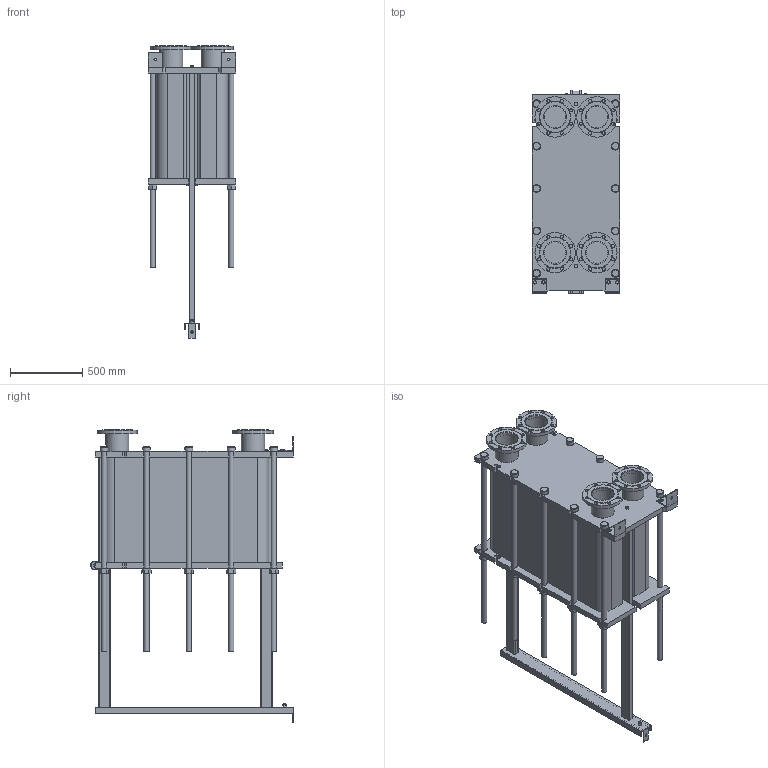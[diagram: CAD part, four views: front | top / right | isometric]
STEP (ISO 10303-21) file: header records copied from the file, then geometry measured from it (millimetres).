
FILE_DESCRIPTION(/* description */ (''),/* implementation_level */ '2;1');
FILE_NAME(/* name */ 'C:\Users\zhuro\Desktop\ENCO\TO\ЭН-041\ЭН-0,5-041-212-1.stp',/* time_stamp */ '2022-06-06T11:06:57+03:00',/* author */ ('zhuro'),/* organization */ (''),/* preprocessor_version */ 'ST-DEVELOPER v18.1',/* originating_system */ 'Autodesk Inventor 2022',/* authorisation */ '');
FILE_SCHEMA (('AUTOMOTIVE_DESIGN { 1 0 10303 214 3 1 1 }'));
Length unit declared in the file: millimetre
Products named in the file (1): ЭН-0,5-041-212-1
Bounding box: 610 x 1406.5 x 2030 mm (x, y, z)
Volume: 499710304.2 mm3; surface area: 11494019.3 mm2
Topology: 52 solids, 52 shells, 711 faces, 1696 edges, 1094 vertices
Faces by surface type: plane 487, cylinder 177, cone 41, torus 6
Full cylindrical faces by diameter (mm): 8 x4, 10 x2, 16 x8, 18 x3, 22 x32, 36 x24, 50 x1, 54 x10, 60 x12, 151 x4, 161 x8, 280 x4
Entity records: 22667 total; most frequent: CARTESIAN_POINT 5230, DIRECTION 3644, ORIENTED_EDGE 3392, EDGE_CURVE 1696, AXIS2_PLACEMENT_3D 1272, LINE 1100, VECTOR 1100, VERTEX_POINT 1094
